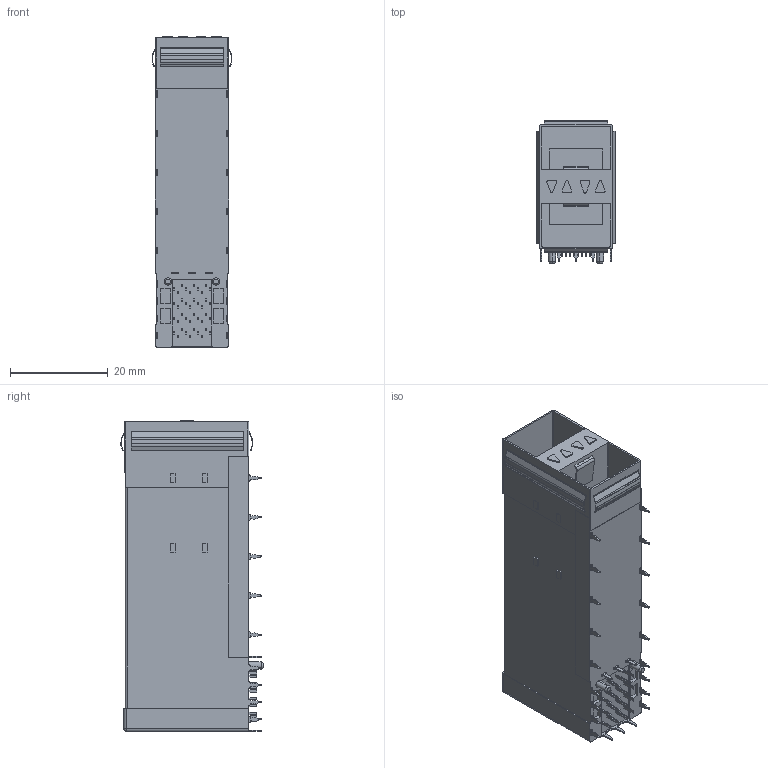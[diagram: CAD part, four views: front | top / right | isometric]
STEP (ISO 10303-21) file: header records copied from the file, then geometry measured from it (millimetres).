
FILE_DESCRIPTION (( 'STEP AP203' ), '1' );
FILE_NAME ('SFP28 2X1.STEP', '2023-11-23T03:08:49', ( '' ), ( '' ), 'SwSTEP 2.0', 'SolidWorks 2018', '' );
FILE_SCHEMA (( 'CONFIG_CONTROL_DESIGN' ));
Length unit declared in the file: millimetre
Products named in the file (1): SFP28 2X1
Bounding box: 16.31 x 29.08 x 63.5 mm (x, y, z)
Volume: 12166.2 mm3; surface area: 11399.5 mm2
Topology: 1 solids, 1 shells, 972 faces, 2773 edges, 1880 vertices
Faces by surface type: plane 639, cylinder 327, cone 4, sphere 2
Entity records: 31846 total; most frequent: CARTESIAN_POINT 5624, ORIENTED_EDGE 5542, DIRECTION 5379, EDGE_CURVE 2771, VECTOR 2109, LINE 2109, VERTEX_POINT 1880, AXIS2_PLACEMENT_3D 1635
